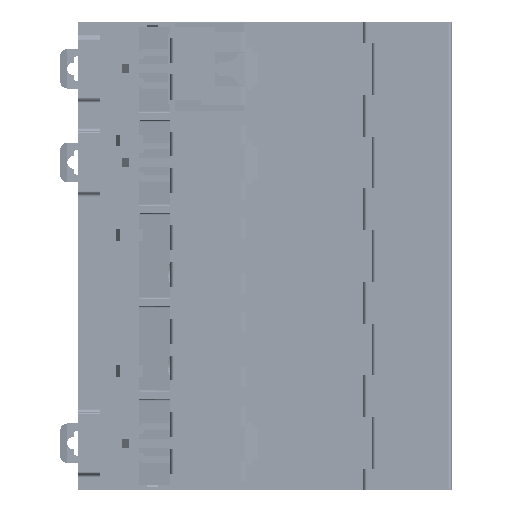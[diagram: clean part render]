
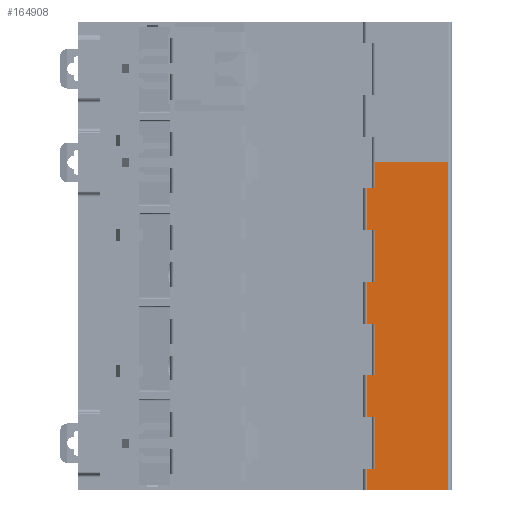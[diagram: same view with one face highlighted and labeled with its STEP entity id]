
A CAD part, front view. The second image highlights one B-rep face of the part: STEP entity #164908.
In plain terms, the highlighted planar face has unit normal (0, -1, 0).
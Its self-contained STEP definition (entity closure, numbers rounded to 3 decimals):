
#7316=DIRECTION('',(1.,0.,0.));
#7317=VECTOR('',#7316,23.3);
#7318=CARTESIAN_POINT('',(325.955,0.,-134.));
#7319=LINE('',#7318,#7317);
#23767=DIRECTION('',(1.,0.,0.));
#23768=VECTOR('',#23767,2.4);
#23769=CARTESIAN_POINT('',(325.955,0.,-47.6));
#23770=LINE('',#23769,#23768);
#23771=DIRECTION('',(1.,0.,0.));
#23772=VECTOR('',#23771,20.9);
#23773=CARTESIAN_POINT('',(328.355,0.,-40.2));
#23774=LINE('',#23773,#23772);
#23775=DIRECTION('',(0.,0.,-1.));
#23776=VECTOR('',#23775,93.8);
#23777=CARTESIAN_POINT('',(349.255,0.,-40.2));
#23778=LINE('',#23777,#23776);
#23779=DIRECTION('',(1.,0.,0.));
#23780=VECTOR('',#23779,2.4);
#23781=CARTESIAN_POINT('',(325.955,0.,-128.));
#23782=LINE('',#23781,#23780);
#23783=DIRECTION('',(-1.,0.,0.));
#23784=VECTOR('',#23783,2.4);
#23785=CARTESIAN_POINT('',(328.355,0.,-113.2));
#23786=LINE('',#23785,#23784);
#23787=DIRECTION('',(1.,0.,0.));
#23788=VECTOR('',#23787,2.4);
#23789=CARTESIAN_POINT('',(325.955,0.,-101.2));
#23790=LINE('',#23789,#23788);
#23791=DIRECTION('',(-1.,0.,0.));
#23792=VECTOR('',#23791,2.4);
#23793=CARTESIAN_POINT('',(328.355,0.,-86.4));
#23794=LINE('',#23793,#23792);
#23795=DIRECTION('',(1.,0.,0.));
#23796=VECTOR('',#23795,2.4);
#23797=CARTESIAN_POINT('',(325.955,0.,-74.4));
#23798=LINE('',#23797,#23796);
#23799=DIRECTION('',(-1.,0.,0.));
#23800=VECTOR('',#23799,2.4);
#23801=CARTESIAN_POINT('',(328.355,0.,-59.6));
#23802=LINE('',#23801,#23800);
#23803=DIRECTION('',(0.,0.,-1.));
#23804=VECTOR('',#23803,12.);
#23805=CARTESIAN_POINT('',(325.955,0.,-47.6));
#23806=LINE('',#23805,#23804);
#23845=DIRECTION('',(0.,0.,-1.));
#23846=VECTOR('',#23845,7.4);
#23847=CARTESIAN_POINT('',(328.355,0.,-40.2));
#23848=LINE('',#23847,#23846);
#46712=DIRECTION('',(0.,0.,-1.));
#46713=VECTOR('',#46712,14.8);
#46714=CARTESIAN_POINT('',(328.355,0.,-59.6));
#46715=LINE('',#46714,#46713);
#46734=DIRECTION('',(0.,0.,-1.));
#46735=VECTOR('',#46734,12.);
#46736=CARTESIAN_POINT('',(325.955,0.,-74.4));
#46737=LINE('',#46736,#46735);
#46772=DIRECTION('',(0.,0.,-1.));
#46773=VECTOR('',#46772,14.8);
#46774=CARTESIAN_POINT('',(328.355,0.,-86.4));
#46775=LINE('',#46774,#46773);
#46794=DIRECTION('',(0.,0.,-1.));
#46795=VECTOR('',#46794,12.);
#46796=CARTESIAN_POINT('',(325.955,0.,-101.2));
#46797=LINE('',#46796,#46795);
#46832=DIRECTION('',(0.,0.,-1.));
#46833=VECTOR('',#46832,14.8);
#46834=CARTESIAN_POINT('',(328.355,0.,-113.2));
#46835=LINE('',#46834,#46833);
#46854=DIRECTION('',(0.,0.,-1.));
#46855=VECTOR('',#46854,6.);
#46856=CARTESIAN_POINT('',(325.955,0.,-128.));
#46857=LINE('',#46856,#46855);
#119021=CARTESIAN_POINT('',(328.355,0.,-128.));
#119022=VERTEX_POINT('',#119021);
#119023=CARTESIAN_POINT('',(325.955,0.,-134.));
#119024=CARTESIAN_POINT('',(349.255,0.,-134.));
#119025=VERTEX_POINT('',#119023);
#119026=VERTEX_POINT('',#119024);
#119027=CARTESIAN_POINT('',(325.955,0.,-128.));
#119028=VERTEX_POINT('',#119027);
#123022=CARTESIAN_POINT('',(328.355,0.,-113.2));
#123023=CARTESIAN_POINT('',(325.955,0.,-113.2));
#123024=VERTEX_POINT('',#123022);
#123025=VERTEX_POINT('',#123023);
#124518=CARTESIAN_POINT('',(325.955,0.,-101.2));
#124519=CARTESIAN_POINT('',(328.355,0.,-101.2));
#124520=VERTEX_POINT('',#124518);
#124521=VERTEX_POINT('',#124519);
#126862=CARTESIAN_POINT('',(328.355,0.,-86.4));
#126863=CARTESIAN_POINT('',(325.955,0.,-86.4));
#126864=VERTEX_POINT('',#126862);
#126865=VERTEX_POINT('',#126863);
#128300=CARTESIAN_POINT('',(325.955,0.,-74.4));
#128301=CARTESIAN_POINT('',(328.355,0.,-74.4));
#128302=VERTEX_POINT('',#128300);
#128303=VERTEX_POINT('',#128301);
#130719=CARTESIAN_POINT('',(328.355,0.,-59.6));
#130720=CARTESIAN_POINT('',(325.955,0.,-59.6));
#130721=VERTEX_POINT('',#130719);
#130722=VERTEX_POINT('',#130720);
#131922=CARTESIAN_POINT('',(349.255,0.,-40.2));
#131923=VERTEX_POINT('',#131922);
#131924=CARTESIAN_POINT('',(328.355,0.,-40.2));
#131925=VERTEX_POINT('',#131924);
#132604=CARTESIAN_POINT('',(325.955,0.,-47.6));
#132605=CARTESIAN_POINT('',(328.355,0.,-47.6));
#132606=VERTEX_POINT('',#132604);
#132607=VERTEX_POINT('',#132605);
#164867=CARTESIAN_POINT('',(327.355,0.,-120.6));
#164868=DIRECTION('',(0.,-1.,0.));
#164869=DIRECTION('',(1.,0.,0.));
#164870=AXIS2_PLACEMENT_3D('',#164867,#164868,#164869);
#164871=PLANE('',#164870);
#164873=ORIENTED_EDGE('',*,*,#164872,.F.);
#164875=ORIENTED_EDGE('',*,*,#164874,.T.);
#164877=ORIENTED_EDGE('',*,*,#164876,.F.);
#164879=ORIENTED_EDGE('',*,*,#164878,.T.);
#164880=ORIENTED_EDGE('',*,*,#164858,.T.);
#164881=ORIENTED_EDGE('',*,*,#144312,.F.);
#164883=ORIENTED_EDGE('',*,*,#164882,.F.);
#164885=ORIENTED_EDGE('',*,*,#164884,.T.);
#164887=ORIENTED_EDGE('',*,*,#164886,.F.);
#164889=ORIENTED_EDGE('',*,*,#164888,.T.);
#164891=ORIENTED_EDGE('',*,*,#164890,.F.);
#164893=ORIENTED_EDGE('',*,*,#164892,.T.);
#164895=ORIENTED_EDGE('',*,*,#164894,.F.);
#164897=ORIENTED_EDGE('',*,*,#164896,.T.);
#164899=ORIENTED_EDGE('',*,*,#164898,.F.);
#164901=ORIENTED_EDGE('',*,*,#164900,.T.);
#164903=ORIENTED_EDGE('',*,*,#164902,.F.);
#164905=ORIENTED_EDGE('',*,*,#164904,.T.);
#164906=EDGE_LOOP('',(#164873,#164875,#164877,#164879,#164880,#164881,#164883,
#164885,#164887,#164889,#164891,#164893,#164895,#164897,#164899,#164901,#164903,
#164905));
#164907=FACE_OUTER_BOUND('',#164906,.F.);
#164908=ADVANCED_FACE('',(#164907),#164871,.T.);
#144312=EDGE_CURVE('',#119025,#119026,#7319,.T.);
#164858=EDGE_CURVE('',#131923,#119026,#23778,.T.);
#164872=EDGE_CURVE('',#132606,#130722,#23806,.T.);
#164874=EDGE_CURVE('',#132606,#132607,#23770,.T.);
#164876=EDGE_CURVE('',#131925,#132607,#23848,.T.);
#164878=EDGE_CURVE('',#131925,#131923,#23774,.T.);
#164882=EDGE_CURVE('',#119028,#119025,#46857,.T.);
#164884=EDGE_CURVE('',#119028,#119022,#23782,.T.);
#164886=EDGE_CURVE('',#123024,#119022,#46835,.T.);
#164888=EDGE_CURVE('',#123024,#123025,#23786,.T.);
#164890=EDGE_CURVE('',#124520,#123025,#46797,.T.);
#164892=EDGE_CURVE('',#124520,#124521,#23790,.T.);
#164894=EDGE_CURVE('',#126864,#124521,#46775,.T.);
#164896=EDGE_CURVE('',#126864,#126865,#23794,.T.);
#164898=EDGE_CURVE('',#128302,#126865,#46737,.T.);
#164900=EDGE_CURVE('',#128302,#128303,#23798,.T.);
#164902=EDGE_CURVE('',#130721,#128303,#46715,.T.);
#164904=EDGE_CURVE('',#130721,#130722,#23802,.T.);
